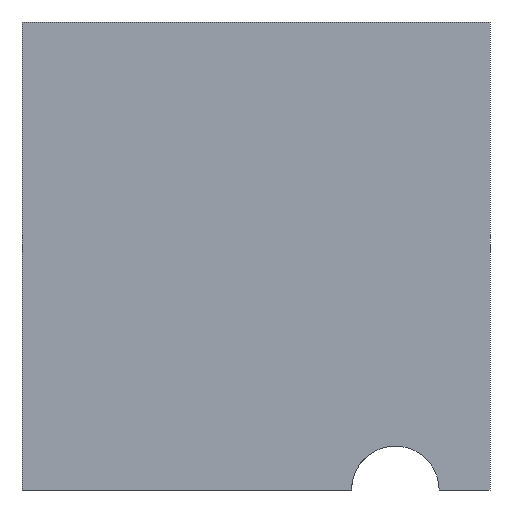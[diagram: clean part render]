
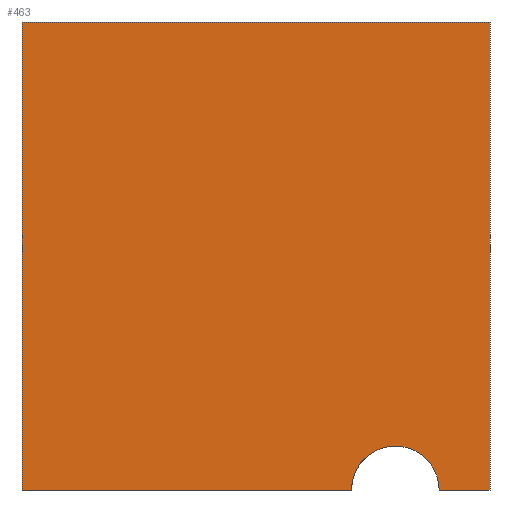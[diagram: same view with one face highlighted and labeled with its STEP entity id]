
A CAD part, left-side view. The second image highlights one B-rep face of the part: STEP entity #463.
In plain terms, the highlighted planar face has unit normal (-1, 0, 0).
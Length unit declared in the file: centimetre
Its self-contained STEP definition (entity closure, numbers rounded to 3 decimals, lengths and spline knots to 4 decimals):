
#3 = EDGE_CURVE ( 'NONE', #330, #533, #140, .T. ) ;
#9 = CARTESIAN_POINT ( 'NONE',  ( 0., 1000., 0. ) ) ;
#24 = DIRECTION ( 'NONE',  ( -1., 0., 0. ) ) ;
#25 = EDGE_LOOP ( 'NONE', ( #482, #435, #153, #395, #195, #511, #58 ) ) ;
#33 = DIRECTION ( 'NONE',  ( 0., -1., 0. ) ) ;
#35 = DIRECTION ( 'NONE',  ( -1., 0., 0. ) ) ;
#37 = DIRECTION ( 'NONE',  ( 1., 0., 0. ) ) ;
#42 = CARTESIAN_POINT ( 'NONE',  ( 0., 202.3447, 93.7203 ) ) ;
#51 = EDGE_CURVE ( 'NONE', #437, #271, #518, .T. ) ;
#54 = VERTEX_POINT ( 'NONE', #179 ) ;
#56 = DIRECTION ( 'NONE',  ( 0., 0., -1. ) ) ;
#57 = DIRECTION ( 'NONE',  ( 0., 0., -1. ) ) ;
#58 = ORIENTED_EDGE ( 'NONE', *, *, #3, .T. ) ;
#72 = CARTESIAN_POINT ( 'NONE',  ( 0., 1000., 1000. ) ) ;
#81 = PLANE ( 'NONE',  #405 ) ;
#104 = CARTESIAN_POINT ( 'NONE',  ( 0., 0., 0. ) ) ;
#108 = LINE ( 'NONE', #393, #139 ) ;
#121 = LINE ( 'NONE', #72, #355 ) ;
#129 = CARTESIAN_POINT ( 'NONE',  ( 0., 1000., 0. ) ) ;
#131 = EDGE_CURVE ( 'NONE', #330, #54, #121, .T. ) ;
#139 = VECTOR ( 'NONE', #56, 100. ) ;
#140 = LINE ( 'NONE', #382, #426 ) ;
#141 = LINE ( 'NONE', #313, #254 ) ;
#144 = CARTESIAN_POINT ( 'NONE',  ( 0., 1000., 1000. ) ) ;
#153 = ORIENTED_EDGE ( 'NONE', *, *, #201, .F. ) ;
#179 = CARTESIAN_POINT ( 'NONE',  ( 0., 0., 1000. ) ) ;
#181 = DIRECTION ( 'NONE',  ( 0., -1., 0. ) ) ;
#195 = ORIENTED_EDGE ( 'NONE', *, *, #215, .F. ) ;
#201 = EDGE_CURVE ( 'NONE', #437, #522, #374, .T. ) ;
#202 = AXIS2_PLACEMENT_3D ( 'NONE', #529, #24, #491 ) ;
#215 = EDGE_CURVE ( 'NONE', #54, #271, #108, .T. ) ;
#228 = DIRECTION ( 'NONE',  ( 0., -1., 0. ) ) ;
#241 = VERTEX_POINT ( 'NONE', #400 ) ;
#246 = CARTESIAN_POINT ( 'NONE',  ( 0., 202.3447, 0. ) ) ;
#254 = VECTOR ( 'NONE', #181, 100. ) ;
#271 = VERTEX_POINT ( 'NONE', #104 ) ;
#286 = DIRECTION ( 'NONE',  ( 0., 0., 1. ) ) ;
#313 = CARTESIAN_POINT ( 'NONE',  ( 0., 1000., 0. ) ) ;
#329 = EDGE_CURVE ( 'NONE', #533, #241, #141, .T. ) ;
#330 = VERTEX_POINT ( 'NONE', #144 ) ;
#355 = VECTOR ( 'NONE', #33, 100. ) ;
#374 = CIRCLE ( 'NONE', #202, 93.7203 ) ;
#377 = AXIS2_PLACEMENT_3D ( 'NONE', #246, #35, #286 ) ;
#382 = CARTESIAN_POINT ( 'NONE',  ( 0., 1000., 1000. ) ) ;
#388 = EDGE_CURVE ( 'NONE', #522, #241, #535, .T. ) ;
#393 = CARTESIAN_POINT ( 'NONE',  ( 0., 0., 1000. ) ) ;
#395 = ORIENTED_EDGE ( 'NONE', *, *, #51, .T. ) ;
#400 = CARTESIAN_POINT ( 'NONE',  ( 0., 296.065, 0. ) ) ;
#405 = AXIS2_PLACEMENT_3D ( 'NONE', #499, #37, #459 ) ;
#410 = VECTOR ( 'NONE', #228, 100. ) ;
#418 = CARTESIAN_POINT ( 'NONE',  ( 0., 108.6244, 0. ) ) ;
#426 = VECTOR ( 'NONE', #57, 100. ) ;
#435 = ORIENTED_EDGE ( 'NONE', *, *, #388, .F. ) ;
#437 = VERTEX_POINT ( 'NONE', #418 ) ;
#458 = FACE_OUTER_BOUND ( 'NONE', #25, .T. ) ;
#459 = DIRECTION ( 'NONE',  ( 0., 0., -1. ) ) ;
#463 = ADVANCED_FACE ( 'NONE', ( #458 ), #81, .F. ) ;
#482 = ORIENTED_EDGE ( 'NONE', *, *, #329, .T. ) ;
#491 = DIRECTION ( 'NONE',  ( 0., 0., 1. ) ) ;
#499 = CARTESIAN_POINT ( 'NONE',  ( 0., 1000., 1000. ) ) ;
#511 = ORIENTED_EDGE ( 'NONE', *, *, #131, .F. ) ;
#518 = LINE ( 'NONE', #9, #410 ) ;
#522 = VERTEX_POINT ( 'NONE', #42 ) ;
#529 = CARTESIAN_POINT ( 'NONE',  ( 0., 202.3447, 0. ) ) ;
#533 = VERTEX_POINT ( 'NONE', #129 ) ;
#535 = CIRCLE ( 'NONE', #377, 93.7203 ) ;
